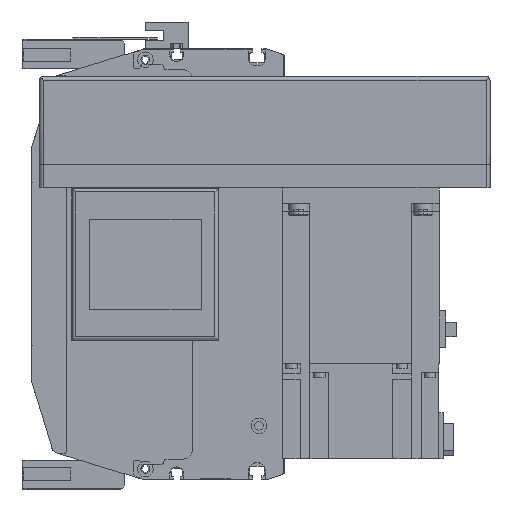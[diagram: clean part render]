
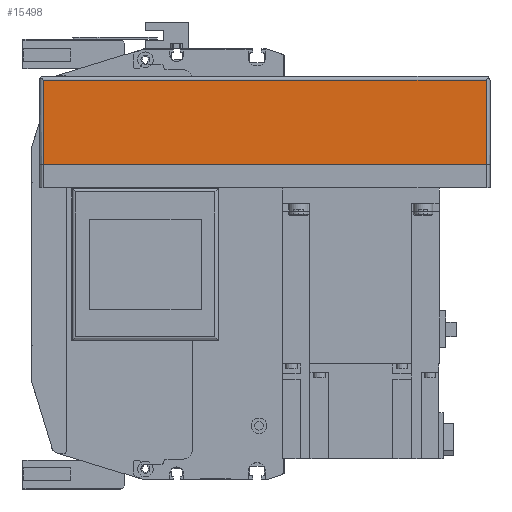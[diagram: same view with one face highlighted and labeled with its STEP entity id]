
A CAD part, left-side view. The second image highlights one B-rep face of the part: STEP entity #15498.
In plain terms, the highlighted planar face has unit normal (-1, 0, 0) as drawn and (0, -1, 0) by its records, which use the part's own axes.
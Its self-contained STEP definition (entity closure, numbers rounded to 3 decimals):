
#2507=ORIENTED_EDGE('',*,*,#6234,.F.);
#2508=ORIENTED_EDGE('',*,*,#6237,.T.);
#2509=ORIENTED_EDGE('',*,*,#6238,.T.);
#2510=ORIENTED_EDGE('',*,*,#6239,.F.);
#6234=EDGE_CURVE('',#8225,#8226,#9833,.T.);
#6237=EDGE_CURVE('',#8225,#8228,#9835,.T.);
#6238=EDGE_CURVE('',#8228,#8229,#9836,.T.);
#6239=EDGE_CURVE('',#8226,#8229,#9837,.T.);
#8225=VERTEX_POINT('',#24171);
#8226=VERTEX_POINT('',#24173);
#8228=VERTEX_POINT('',#24179);
#8229=VERTEX_POINT('',#24181);
#9833=LINE('',#24172,#11192);
#9835=LINE('',#24178,#11194);
#9836=LINE('',#24180,#11195);
#9837=LINE('',#24182,#11196);
#11192=VECTOR('',#19276,1000.);
#11194=VECTOR('',#19282,1000.);
#11195=VECTOR('',#19283,1000.);
#11196=VECTOR('',#19284,1000.);
#12376=EDGE_LOOP('',(#2507,#2508,#2509,#2510));
#13687=FACE_BOUND('',#12376,.T.);
#14854=PLANE('',#16622);
#15498=ADVANCED_FACE('',(#13687),#14854,.T.);
#16622=AXIS2_PLACEMENT_3D('',#24177,#19280,#19281);
#19276=DIRECTION('',(0.,0.,1.));
#19280=DIRECTION('',(0.,-1.,0.));
#19281=DIRECTION('',(0.,0.,-1.));
#19282=DIRECTION('',(1.,0.,0.));
#19283=DIRECTION('',(0.,0.,1.));
#19284=DIRECTION('',(1.,0.,0.));
#24171=CARTESIAN_POINT('',(-228.,-54.,-55.));
#24172=CARTESIAN_POINT('',(-228.,-54.,-57.));
#24173=CARTESIAN_POINT('',(-228.,-54.,-12.));
#24177=CARTESIAN_POINT('',(-228.,-54.,-57.));
#24178=CARTESIAN_POINT('',(-230.,-54.,-55.));
#24179=CARTESIAN_POINT('',(-2.,-54.,-55.));
#24180=CARTESIAN_POINT('',(-2.,-54.,-57.));
#24181=CARTESIAN_POINT('',(-2.,-54.,-12.));
#24182=CARTESIAN_POINT('',(-228.,-54.,-12.));
